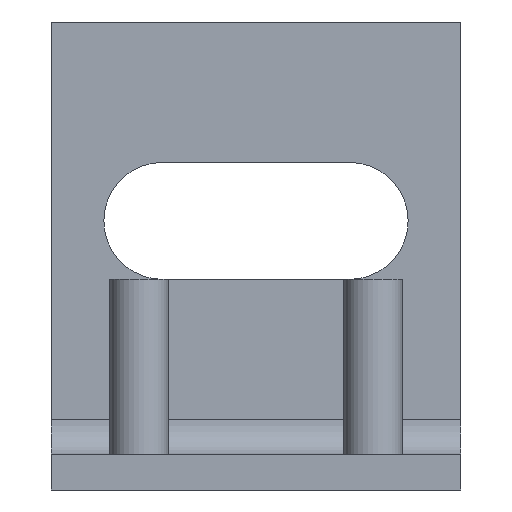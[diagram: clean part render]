
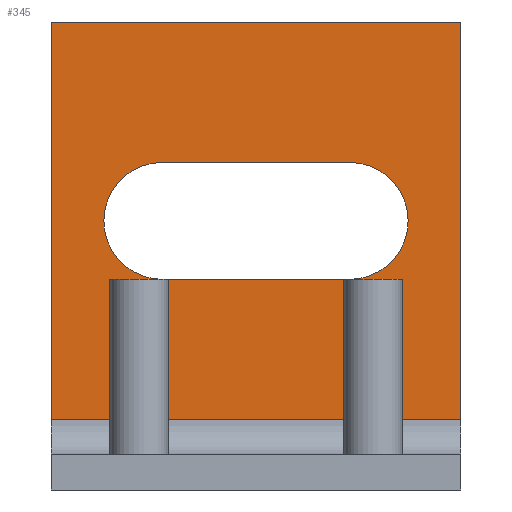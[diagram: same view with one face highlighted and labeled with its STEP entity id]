
A CAD part, front view. The second image highlights one B-rep face of the part: STEP entity #345.
In plain terms, the highlighted planar face has unit normal (0, -1, 0).
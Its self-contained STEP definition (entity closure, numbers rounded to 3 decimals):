
#15=FACE_BOUND('',#68,.T.);
#24=PLANE('',#391);
#45=FACE_OUTER_BOUND('',#67,.T.);
#67=EDGE_LOOP('',(#271,#272,#273,#274));
#68=EDGE_LOOP('',(#275,#276,#277,#278));
#85=LINE('',#527,#119);
#90=LINE('',#541,#124);
#96=LINE('',#561,#130);
#99=LINE('',#567,#133);
#100=LINE('',#569,#134);
#101=LINE('',#570,#135);
#119=VECTOR('',#427,10.);
#124=VECTOR('',#440,10.);
#130=VECTOR('',#460,4.32);
#133=VECTOR('',#465,10.);
#134=VECTOR('',#466,4.32);
#135=VECTOR('',#467,10.);
#155=CIRCLE('',#381,5.);
#157=CIRCLE('',#385,5.);
#167=VERTEX_POINT('',#525);
#168=VERTEX_POINT('',#526);
#171=VERTEX_POINT('',#534);
#173=VERTEX_POINT('',#540);
#179=VERTEX_POINT('',#558);
#180=VERTEX_POINT('',#560);
#182=VERTEX_POINT('',#566);
#183=VERTEX_POINT('',#568);
#197=EDGE_CURVE('',#167,#168,#85,.T.);
#201=EDGE_CURVE('',#171,#167,#155,.T.);
#204=EDGE_CURVE('',#173,#171,#90,.T.);
#207=EDGE_CURVE('',#168,#173,#157,.T.);
#214=EDGE_CURVE('',#180,#179,#96,.T.);
#217=EDGE_CURVE('',#179,#182,#99,.T.);
#218=EDGE_CURVE('',#183,#182,#100,.T.);
#219=EDGE_CURVE('',#183,#180,#101,.T.);
#271=ORIENTED_EDGE('',*,*,#217,.T.);
#272=ORIENTED_EDGE('',*,*,#218,.F.);
#273=ORIENTED_EDGE('',*,*,#219,.T.);
#274=ORIENTED_EDGE('',*,*,#214,.T.);
#275=ORIENTED_EDGE('',*,*,#197,.T.);
#276=ORIENTED_EDGE('',*,*,#207,.T.);
#277=ORIENTED_EDGE('',*,*,#204,.T.);
#278=ORIENTED_EDGE('',*,*,#201,.T.);
#345=ADVANCED_FACE('',(#45,#15),#24,.F.);
#381=AXIS2_PLACEMENT_3D('',#535,#433,#434);
#385=AXIS2_PLACEMENT_3D('',#546,#445,#446);
#391=AXIS2_PLACEMENT_3D('',#565,#463,#464);
#427=DIRECTION('',(-1.,0.,0.));
#433=DIRECTION('center_axis',(0.,1.,0.));
#434=DIRECTION('ref_axis',(0.,0.,-1.));
#440=DIRECTION('',(1.,0.,0.));
#445=DIRECTION('center_axis',(0.,1.,0.));
#446=DIRECTION('ref_axis',(0.,0.,1.));
#460=DIRECTION('',(0.,0.,-1.));
#463=DIRECTION('center_axis',(0.,1.,0.));
#464=DIRECTION('ref_axis',(-1.,0.,0.));
#465=DIRECTION('',(1.,0.,0.));
#466=DIRECTION('',(0.,0.,-1.));
#467=DIRECTION('',(-1.,0.,0.));
#525=CARTESIAN_POINT('',(25.5,57.,18.));
#526=CARTESIAN_POINT('',(9.5,57.,18.));
#527=CARTESIAN_POINT('',(21.5,57.,18.));
#534=CARTESIAN_POINT('',(25.5,57.,28.));
#535=CARTESIAN_POINT('Origin',(25.5,57.,23.));
#540=CARTESIAN_POINT('',(9.5,57.,28.));
#541=CARTESIAN_POINT('',(13.5,57.,28.));
#546=CARTESIAN_POINT('Origin',(9.5,57.,23.));
#558=CARTESIAN_POINT('',(0.,57.,6.));
#560=CARTESIAN_POINT('',(0.,57.,40.));
#561=CARTESIAN_POINT('',(0.,57.,-7.572));
#565=CARTESIAN_POINT('Origin',(17.5,57.,19.607));
#566=CARTESIAN_POINT('',(35.,57.,6.));
#567=CARTESIAN_POINT('',(17.5,57.,6.));
#568=CARTESIAN_POINT('',(35.,57.,40.));
#569=CARTESIAN_POINT('',(35.,57.,-7.572));
#570=CARTESIAN_POINT('',(35.,57.,40.));
